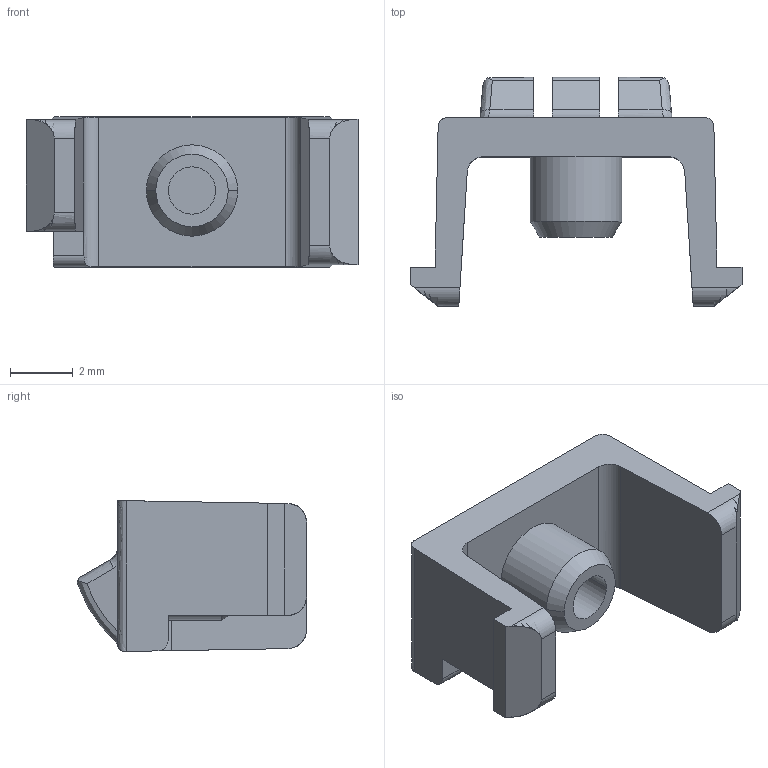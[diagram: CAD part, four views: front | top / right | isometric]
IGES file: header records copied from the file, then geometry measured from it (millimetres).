
Start section:  PTC IGES file: jc_button_prt.igs
Global section: file name: jc_button_prt.igs; native system: Pro/ENGINEER by Parametric Technology Corporation; preprocessor: 2000030; author: ECaille; organization: Unknown; date: 000803.091949; units: millimetre
Bounding box: 10.55 x 7.28 x 4.8 mm (x, y, z)
Surface area: 268.3 mm2 (no closed solid volume)
Topology: 0 solids, 0 shells, 58 faces, 503 edges, 691 vertices
Faces by surface type: bspline 33, revolution 25
